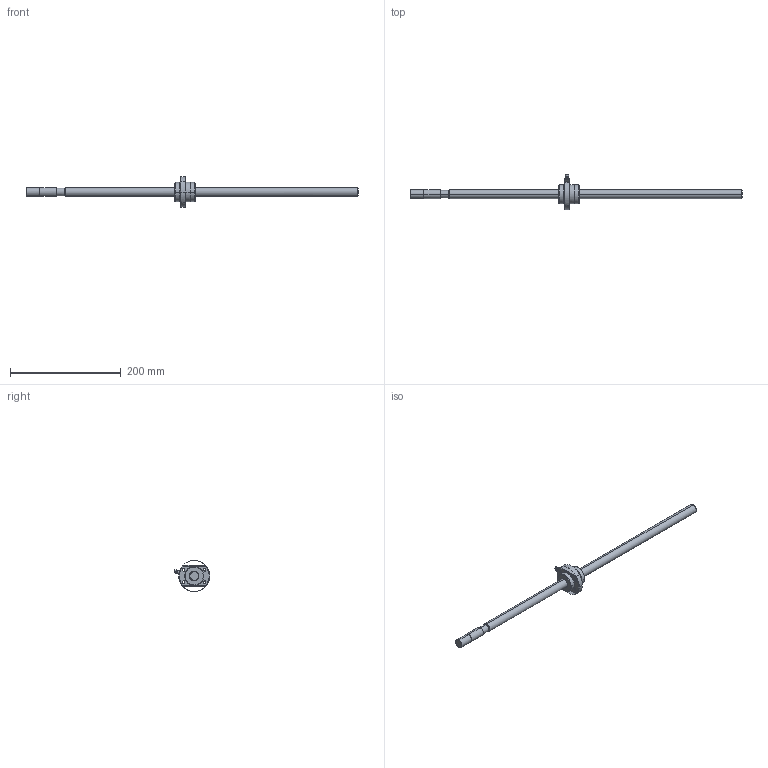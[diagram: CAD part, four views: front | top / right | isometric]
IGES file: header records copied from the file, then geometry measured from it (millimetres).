
Global section: file name: No Iges File Name specified; native system: AutoDesk Inventor R10; preprocessor: AutoDesk Inventor Iges Exporter R10; author: No Author specified; organization: No Organization specified; date: 20101224.134158; units: millimetre
Bounding box: 600 x 63.9 x 55.95 mm (x, y, z)
Surface area: 41812.8 mm2 (no closed solid volume)
Topology: 0 solids, 0 shells, 83 faces, 505 edges, 501 vertices
Faces by surface type: bspline 83
